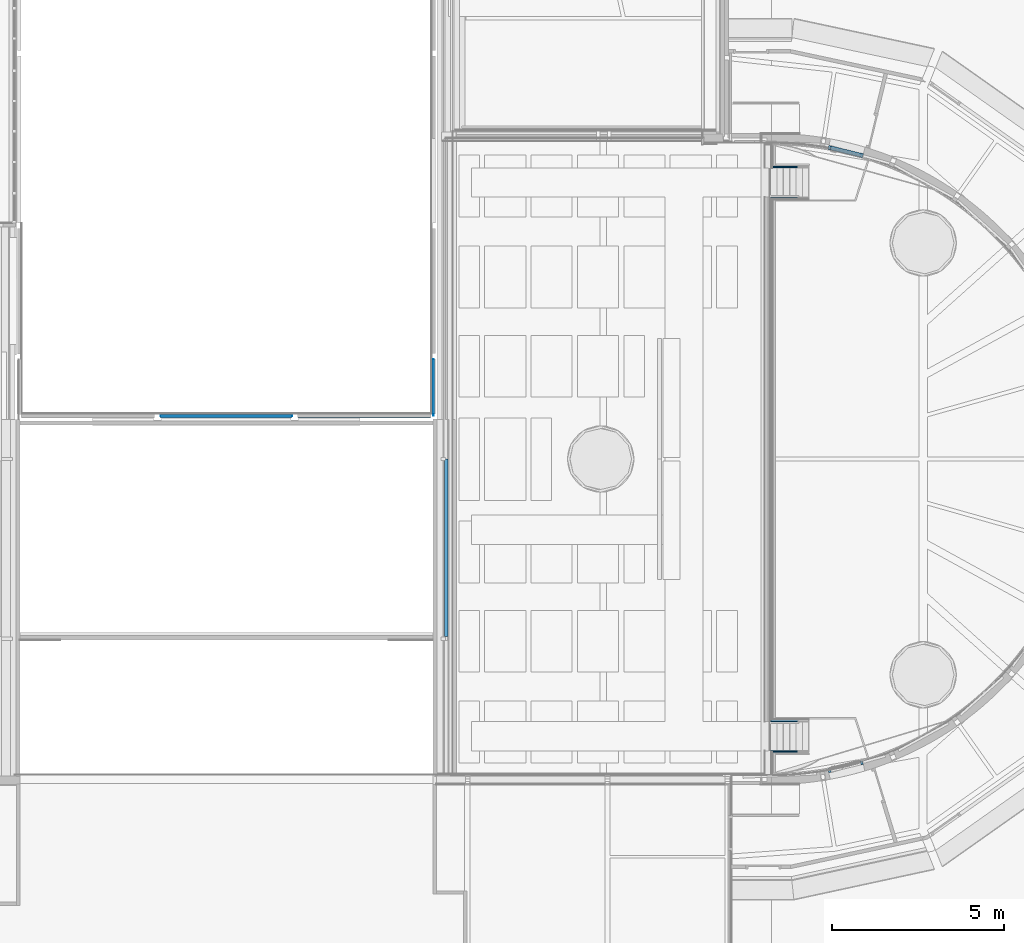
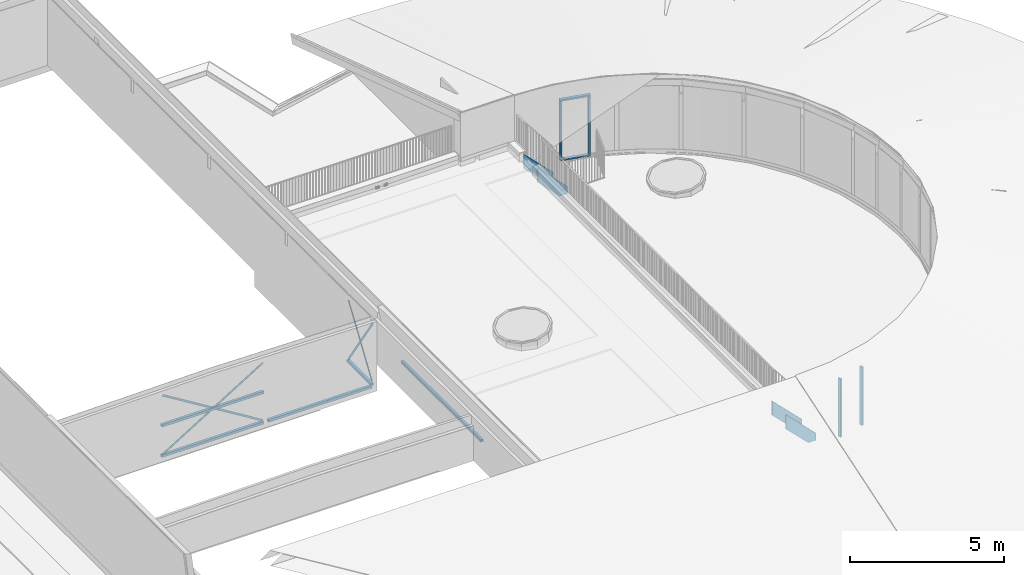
# One storey, part 4 of 66: 10 members, 9 beams, 4 elements without a shape of their own.
"""IFC2X3 building model written with IfcOpenShell, lengths in millimetres."""

import ifcopenshell
import ifcopenshell.guid

model = None  # the IFC model being written
_history = None  # IfcOwnerHistory: only IFC2X3 demands one
_inside = {}  # id of a spatial element -> (the spatial element, [elements in it])
_under = {}  # id of a project, library or spatial element -> (it, [spatial elements below it])
_declared = {}  # id of a project -> (the project, [libraries it declares])
_typed = {}  # id of a type object -> (the type object, [elements of that type])
_made_of = {}  # id of a material, layer set ... -> (it, [elements and type objects made of it])


def new_model(schema):
    """Start an empty IFC model of exactly this schema.

    Asked for "IFC4X3", IfcOpenShell would pick the latest addendum, in which some entities
    have other attributes; the version numbers below select the first issue.
    IFC2X3 requires an IfcOwnerHistory on every rooted entity: one is made here for all.
    """
    global model, _history
    if schema == "IFC4X3":
        model = ifcopenshell.file(schema_version=(4, 3, 0, 0))
    else:
        model = ifcopenshell.file(schema=schema)
    _inside.clear()
    _under.clear()
    _declared.clear()
    _typed.clear()
    _made_of.clear()
    _history = None
    if model.schema == "IFC2X3":
        org = make("IfcOrganization", Name="unknown")
        user = make(
            "IfcPersonAndOrganization",
            ThePerson=make("IfcPerson", FamilyName="unknown"),
            TheOrganization=org,
        )
        app = make(
            "IfcApplication",
            ApplicationDeveloper=org,
            Version="unknown",
            ApplicationFullName="unknown",
            ApplicationIdentifier="unknown",
        )
        _history = make(
            "IfcOwnerHistory",
            OwningUser=user,
            OwningApplication=app,
            ChangeAction="ADDED",
            CreationDate=0,
        )
    return model


def make(cls, **values):
    """One entity of the class cls with the attributes given. An attribute that is None is left unset."""
    return model.create_entity(
        cls, **{name: value for name, value in values.items() if value is not None}
    )


def entity(cls, *values):
    """Any entity or typed value of the class cls, its attributes in the order of the schema. None: left unset."""
    e = model.create_entity(cls)
    for i, value in enumerate(values):
        if value is not None:
            e[i] = value
    return e


def rooted(cls, **values):
    """An entity with a GlobalId (a new one), such as an element, a storey or a relation."""
    return make(cls, GlobalId=ifcopenshell.guid.new(), OwnerHistory=_history, **values)


def si_unit(unit_type, name, prefix=None):
    """IfcSIUnit, for example si_unit("LENGTHUNIT", "METRE", prefix="MILLI")."""
    return make("IfcSIUnit", UnitType=unit_type, Prefix=prefix, Name=name)


def converted_unit(unit_type, name, factor, base, dimensions=None, offset=None):
    """IfcConversionBasedUnit, such as the inch: factor (a typed value) times the base unit."""
    return make(
        "IfcConversionBasedUnit"
        if offset is None
        else "IfcConversionBasedUnitWithOffset",
        ConversionOffset=offset,
        Dimensions=None
        if dimensions is None
        else entity("IfcDimensionalExponents", *dimensions),
        UnitType=unit_type,
        Name=name,
        ConversionFactor=make(
            "IfcMeasureWithUnit", ValueComponent=factor, UnitComponent=base
        ),
    )


def derived_unit(unit_type, elements):
    """IfcDerivedUnit: a product of units, each with its exponent."""
    return make(
        "IfcDerivedUnit",
        Elements=[
            make("IfcDerivedUnitElement", Unit=unit, Exponent=power)
            for unit, power in elements
        ],
        UnitType=unit_type,
    )


def assignment(units):
    """IfcUnitAssignment: the units of a project."""
    return None if units is None else make("IfcUnitAssignment", Units=units)


def point(xyz):
    """IfcCartesianPoint."""
    return None if xyz is None else make("IfcCartesianPoint", Coordinates=xyz)


def direction(xyz):
    """IfcDirection."""
    return None if xyz is None else make("IfcDirection", DirectionRatios=xyz)


def frame(location, z_axis=None, x_axis=None):
    """IfcAxis2Placement3D, a coordinate frame: its origin and axes. An axis left out is left unset."""
    return make(
        "IfcAxis2Placement3D",
        Location=point(location),
        Axis=direction(z_axis),
        RefDirection=direction(x_axis),
    )


def frame_2d(location, x_axis=None):
    """IfcAxis2Placement2D, a coordinate frame in the plane: its origin and x axis."""
    return make(
        "IfcAxis2Placement2D", Location=point(location), RefDirection=direction(x_axis)
    )


def origin():
    """The frame at (0, 0, 0) with its axes left unset."""
    return frame((0.0, 0.0, 0.0))


def origin_2d_with_axis():
    """The frame at (0, 0) in the plane with the x axis (1, 0) written out."""
    return frame_2d((0.0, 0.0), x_axis=(1.0, 0.0))


def place(relative_to, where):
    """IfcLocalPlacement: puts the frame where relative to a parent placement (None: the world)."""
    return make(
        "IfcLocalPlacement", PlacementRelTo=relative_to, RelativePlacement=where
    )


def context(
    kind, dimensions, precision=None, world=None, true_north=None, identifier=None
):
    """IfcGeometricRepresentationContext, for example the 3D "Model" context."""
    return make(
        "IfcGeometricRepresentationContext",
        ContextIdentifier=identifier,
        ContextType=kind,
        CoordinateSpaceDimension=dimensions,
        Precision=precision,
        WorldCoordinateSystem=world,
        TrueNorth=true_north,
    )


def subcontext(parent, identifier, kind, view, scale=None):
    """IfcGeometricRepresentationSubContext, for example "Body" below "Model"."""
    return make(
        "IfcGeometricRepresentationSubContext",
        ContextIdentifier=identifier,
        ContextType=kind,
        ParentContext=parent,
        TargetScale=scale,
        TargetView=view,
    )


def project(units=None, contexts=None):
    """IfcProject with its units and contexts."""
    return rooted(
        "IfcProject",
        Name="project",
        RepresentationContexts=contexts,
        UnitsInContext=assignment(units),
    )


def spatial(cls, under=None, at=None, **own):
    """A site, building, storey or space (cls), placed at a placement, below another one or the project."""
    s = rooted(cls, ObjectPlacement=at, **own)
    if under is not None:
        _under.setdefault(under.id(), (under, []))[1].append(s)
    return s


def polyline(points):
    """IfcPolyline through the points."""
    return make("IfcPolyline", Points=[point(p) for p in points])


def profile(cls, at=None, kind="AREA", **sizes):
    """A parametric profile (cls). Its sizes go by their IFC names, for example OverallWidth=200.0."""
    return make(cls, ProfileType=kind, Position=at, **sizes)


def rectangle(**sizes):
    """IfcRectangleProfileDef."""
    return profile("IfcRectangleProfileDef", **sizes)


def outline(outer, holes=None, kind="AREA"):
    """IfcArbitraryClosedProfileDef: a profile drawn as a closed curve; with holes, ...WithVoids."""
    if holes is None:
        return make("IfcArbitraryClosedProfileDef", ProfileType=kind, OuterCurve=outer)
    return make(
        "IfcArbitraryProfileDefWithVoids",
        ProfileType=kind,
        OuterCurve=outer,
        InnerCurves=holes,
    )


def extrude(swept, where, along, depth):
    """IfcExtrudedAreaSolid: the profile swept, set in the frame where, extruded along a direction by depth."""
    return make(
        "IfcExtrudedAreaSolid",
        SweptArea=swept,
        Position=where,
        ExtrudedDirection=direction(along),
        Depth=depth,
    )


def boolean(op, a, b):
    """IfcBooleanResult of two solids."""
    return make("IfcBooleanResult", Operator=op, FirstOperand=a, SecondOperand=b)


def shape(context_of_items, identifier, shape_type, items):
    """IfcShapeRepresentation: the items that make up one representation, for example the "Body"."""
    return make(
        "IfcShapeRepresentation",
        ContextOfItems=context_of_items,
        RepresentationIdentifier=identifier,
        RepresentationType=shape_type,
        Items=items,
    )


def source(mapping_origin, context_of_items, identifier, shape_type, items):
    """IfcRepresentationMap: a shape defined once, which mapped items show again and again."""
    return make(
        "IfcRepresentationMap",
        MappingOrigin=mapping_origin,
        MappedRepresentation=shape(context_of_items, identifier, shape_type, items),
    )


def transform(
    local_origin,
    x_axis=None,
    y_axis=None,
    z_axis=None,
    scale=None,
    scale2=None,
    scale3=None,
    uniform=True,
):
    """IfcCartesianTransformationOperator3D, or its non-uniform kind. x_axis, y_axis, z_axis: its Axis1, 2, 3."""
    if uniform:
        return make(
            "IfcCartesianTransformationOperator3D",
            Axis1=direction(x_axis),
            Axis2=direction(y_axis),
            LocalOrigin=point(local_origin),
            Scale=scale,
            Axis3=direction(z_axis),
        )
    return make(
        "IfcCartesianTransformationOperator3DnonUniform",
        Axis1=direction(x_axis),
        Axis2=direction(y_axis),
        LocalOrigin=point(local_origin),
        Scale=scale,
        Axis3=direction(z_axis),
        Scale2=scale2,
        Scale3=scale3,
    )


def mapped(mapping_source, mapping_target):
    """IfcMappedItem: shows the shape of a source again, moved by a transform."""
    return make(
        "IfcMappedItem", MappingSource=mapping_source, MappingTarget=mapping_target
    )


def material(Name=None, Category=None):
    """IfcMaterial."""
    return make("IfcMaterial", Name=Name, Category=Category)


def made_of(thing, what):
    """Note that an element or type object is made of a material, layer set ...; save() writes the relation."""
    if what is not None:
        _made_of.setdefault(what.id(), (what, []))[1].append(thing)
    return thing


def type_object(cls, material=None, **own):
    """A type object (cls), such as IfcWallType, which elements share."""
    return made_of(rooted(cls, **own), material)


def type_shapes(of_type, sources):
    """Give a type object the sources (RepresentationMaps) that its elements show as mapped items."""
    of_type.RepresentationMaps = sources


def element(
    cls,
    number,
    at=None,
    inside=None,
    cuts=None,
    type_object=None,
    material=None,
    context=None,
    identifier="Body",
    shape_type=None,
    held_by="IfcProductDefinitionShape",
    body=None,
    shapes=None,
    **own,
):
    """One element of the class cls, such as IfcWall. Its Tag is "e" and its number.

    at: its placement. inside: the storey or other place that contains it. cuts: it is an
    opening in that element (IfcRelVoidsElement). A single representation is given by context,
    identifier, shape_type and body (its items); several are given by shapes. held_by: the class
    of the entity that holds the representations. save() writes the other relations.
    """
    e = rooted(cls, Tag="e%d" % number, ObjectPlacement=at, **own)
    if body is not None:
        shapes = [shape(context, identifier, shape_type, body)]
    if shapes is not None:
        e.Representation = make(held_by, Representations=shapes)
    if inside is not None:
        _inside.setdefault(inside.id(), (inside, []))[1].append(e)
    if cuts is not None:
        rooted(
            "IfcRelVoidsElement", RelatingBuildingElement=cuts, RelatedOpeningElement=e
        )
    if type_object is not None:
        _typed.setdefault(type_object.id(), (type_object, []))[1].append(e)
    return made_of(e, material)


def aggregate(whole, parts):
    """IfcRelAggregates: a whole, such as a stair, and the parts it consists of."""
    return rooted("IfcRelAggregates", RelatingObject=whole, RelatedObjects=parts)


def save(model, path):
    """Write the relations noted so far, then the file.

    IfcRelAggregates (storeys below a building ...), IfcRelContainedInSpatialStructure (elements
    in a storey), IfcRelDefinesByType, IfcRelAssociatesMaterial and IfcRelDeclares: one each for
    every whole, place, type object, material and project.
    """
    for whole, parts in _under.values():
        aggregate(whole, parts)
    for where, things in _inside.values():
        rooted(
            "IfcRelContainedInSpatialStructure",
            RelatedElements=things,
            RelatingStructure=where,
        )
    for kind, things in _typed.values():
        rooted("IfcRelDefinesByType", RelatedObjects=things, RelatingType=kind)
    for what, things in _made_of.values():
        rooted("IfcRelAssociatesMaterial", RelatedObjects=things, RelatingMaterial=what)
    for by, libraries in _declared.values():
        rooted("IfcRelDeclares", RelatingContext=by, RelatedDefinitions=libraries)
    model.write(path)


model = new_model("IFC2X3")

# Units and contexts
model_context = context("Model", 3, precision=0.01, world=origin(), true_north=direction((6.12303176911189e-17, 1.0)))
body_context = subcontext(model_context, "Body", "Model", "MODEL_VIEW")
ifc_project = project(units=[si_unit("LENGTHUNIT", "METRE", prefix="MILLI"), si_unit("AREAUNIT", "SQUARE_METRE"), si_unit("VOLUMEUNIT", "CUBIC_METRE"), converted_unit("PLANEANGLEUNIT", "DEGREE", entity("IfcRatioMeasure", 0.0174532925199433), si_unit("PLANEANGLEUNIT", "RADIAN"), dimensions=[0, 0, 0, 0, 0, 0, 0]), si_unit("MASSUNIT", "GRAM", prefix="KILO"), derived_unit("MASSDENSITYUNIT", [(si_unit("MASSUNIT", "GRAM", prefix="KILO"), 1), (si_unit("LENGTHUNIT", "METRE"), -3)]), derived_unit("MOMENTOFINERTIAUNIT", [(si_unit("LENGTHUNIT", "METRE"), 4)]), si_unit("TIMEUNIT", "SECOND"), si_unit("FREQUENCYUNIT", "HERTZ"), si_unit("THERMODYNAMICTEMPERATUREUNIT", "DEGREE_CELSIUS"), derived_unit("THERMALTRANSMITTANCEUNIT", [(si_unit("MASSUNIT", "GRAM", prefix="KILO"), 1), (si_unit("THERMODYNAMICTEMPERATUREUNIT", "KELVIN"), -1), (si_unit("TIMEUNIT", "SECOND"), -3)]), derived_unit("VOLUMETRICFLOWRATEUNIT", [(si_unit("LENGTHUNIT", "METRE"), 3), (si_unit("TIMEUNIT", "SECOND"), -1)]), si_unit("ELECTRICCURRENTUNIT", "AMPERE"), si_unit("ELECTRICVOLTAGEUNIT", "VOLT"), si_unit("POWERUNIT", "WATT"), si_unit("FORCEUNIT", "NEWTON", prefix="KILO"), si_unit("ILLUMINANCEUNIT", "LUX"), si_unit("LUMINOUSFLUXUNIT", "LUMEN"), si_unit("LUMINOUSINTENSITYUNIT", "CANDELA"), derived_unit("USERDEFINED", [(si_unit("MASSUNIT", "GRAM", prefix="KILO"), -1), (si_unit("LENGTHUNIT", "METRE"), -2), (si_unit("TIMEUNIT", "SECOND"), 3), (si_unit("LUMINOUSFLUXUNIT", "LUMEN"), 1)]), derived_unit("LINEARVELOCITYUNIT", [(si_unit("LENGTHUNIT", "METRE"), 1), (si_unit("TIMEUNIT", "SECOND"), -1)]), si_unit("PRESSUREUNIT", "PASCAL"), derived_unit("USERDEFINED", [(si_unit("LENGTHUNIT", "METRE"), -2), (si_unit("MASSUNIT", "GRAM", prefix="KILO"), 1), (si_unit("TIMEUNIT", "SECOND"), -2)]), derived_unit("LINEARFORCEUNIT", [(si_unit("MASSUNIT", "GRAM", prefix="KILO"), 1), (si_unit("LENGTHUNIT", "METRE"), 1), (si_unit("TIMEUNIT", "SECOND"), -2), (si_unit("LENGTHUNIT", "METRE"), -1)]), derived_unit("PLANARFORCEUNIT", [(si_unit("MASSUNIT", "GRAM", prefix="KILO"), 1), (si_unit("LENGTHUNIT", "METRE"), 1), (si_unit("TIMEUNIT", "SECOND"), -2), (si_unit("LENGTHUNIT", "METRE"), -2)])], contexts=[model_context])

# Site, building, storey
site_placement = place(None, origin())
site = spatial("IfcSite", under=ifc_project, at=site_placement, Name="Default", CompositionType="ELEMENT")
building_placement = place(site_placement, origin())
building = spatial("IfcBuilding", under=site, at=building_placement, Name="-", CompositionType="ELEMENT")
storey_placement = place(building_placement, frame((0.0, 0.0, 3070.0)))
storey = spatial("IfcBuildingStorey", under=building, at=storey_placement, Name="01 eerste verdieping", CompositionType="ELEMENT", Elevation=3070.00000000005)

# Stair, members
stair_1_placement = place(storey_placement, origin())
stair_1 = element("IfcStair", 1, at=stair_1_placement, inside=storey, Name="Assembled Stair:Stair", ObjectType="Assembled Stair:27_woningbouw", ShapeType="STRAIGHT_RUN_STAIR")
ifc_material_1 = material(Name="AL_31_Naaldhout Trap boom")
member_type_1 = type_object("IfcMemberType", Name="Stringer:Stringer - 50 mm Width (2)", PredefinedType="STRINGER")
member_1_placement = place(stair_1_placement, origin())
member_1 = element("IfcMember", 2, at=member_1_placement, type_object=member_type_1, material=ifc_material_1, Name="Assembled Stair:Stair:6459863 Stringer 1", ObjectType="Stringer:Stringer - 50 mm Width (2)", context=body_context, shape_type="SweptSolid", body=[
    extrude(outline(polyline([(-501.467792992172, -498.167899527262), (-214.128828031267, -498.167899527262), (608.532207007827, 325.128394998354), (608.532207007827, 891.032273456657), (-501.467792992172, -219.824869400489), (-501.467792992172, -498.167899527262)])), frame((51230.1525971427, 11080.9965964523, 738.167899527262), z_axis=(0.0, 1.0, 0.0), x_axis=(-1.0, 0.0, 0.0)), (0.0, 0.0, 1.0), 49.9999999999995),
])
member_2_placement = place(stair_1_placement, origin())
member_2 = element("IfcMember", 3, at=member_2_placement, type_object=member_type_1, material=ifc_material_1, Name="Assembled Stair:Stair:6459863 Stringer 2", ObjectType="Stringer:Stringer - 50 mm Width (2)", context=body_context, shape_type="SweptSolid", body=[
    extrude(outline(polyline([(-501.467792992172, -498.167899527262), (-214.128828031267, -498.167899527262), (608.532207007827, 325.128394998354), (608.532207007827, 891.032273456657), (-501.467792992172, -219.824869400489), (-501.467792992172, -498.167899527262)])), frame((51230.1525971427, 11980.9965964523, 738.167899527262), z_axis=(0.0, 1.0, 0.0), x_axis=(-1.0, 0.0, 0.0)), (0.0, 0.0, 1.0), 49.9999999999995),
])
aggregate(stair_1, [member_1, member_2])

stair_2_placement = place(storey_placement, origin())
stair_2 = element("IfcStair", 4, at=stair_2_placement, inside=storey, Name="Assembled Stair:Stair", ObjectType="Assembled Stair:27_woningbouw", ShapeType="STRAIGHT_RUN_STAIR")
member_3_placement = place(stair_2_placement, origin())
member_3 = element("IfcMember", 5, at=member_3_placement, type_object=member_type_1, material=ifc_material_1, Name="Assembled Stair:Stair:6460690 Stringer 1", ObjectType="Stringer:Stringer - 50 mm Width (2)", context=body_context, shape_type="SweptSolid", body=[
    extrude(outline(polyline([(-501.467792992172, -498.167899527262), (-214.128828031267, -498.167899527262), (608.532207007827, 325.128394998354), (608.532207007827, 891.032273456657), (-501.467792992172, -219.824869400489), (-501.467792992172, -498.167899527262)])), frame((51230.1525971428, 27180.9965964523, 738.167899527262), z_axis=(0.0, 1.0, 0.0), x_axis=(-1.0, 0.0, 0.0)), (0.0, 0.0, 1.0), 50.0000000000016),
])
member_4_placement = place(stair_2_placement, origin())
member_4 = element("IfcMember", 6, at=member_4_placement, type_object=member_type_1, material=ifc_material_1, Name="Assembled Stair:Stair:6460690 Stringer 2", ObjectType="Stringer:Stringer - 50 mm Width (2)", context=body_context, shape_type="SweptSolid", body=[
    extrude(outline(polyline([(-501.467792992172, -498.167899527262), (-214.128828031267, -498.167899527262), (608.532207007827, 325.128394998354), (608.532207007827, 891.032273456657), (-501.467792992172, -219.824869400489), (-501.467792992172, -498.167899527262)])), frame((51230.1525971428, 28080.9965964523, 738.167899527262), z_axis=(0.0, 1.0, 0.0), x_axis=(-1.0, 0.0, 0.0)), (0.0, 0.0, 1.0), 50.0000000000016),
])
aggregate(stair_2, [member_3, member_4])

# Beams
ifc_material_2 = material(Name="NLRS_h3_staal_verzinkt")
beam_type_1 = type_object("IfcBeamType", Name="NLRS_28_SF_UN_kokerprofielen_gen_aly:K100/4", PredefinedType="NOTDEFINED")
beam_1_placement = place(storey_placement, frame((40812.1311424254, 22567.5320880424, 345.0), z_axis=(0.0, 0.0, 1.0), x_axis=(0.0, -1.0, 0.0)))
element("IfcBeam", 7, at=beam_1_placement, inside=storey, type_object=beam_type_1, material=ifc_material_2, Name="NLRS_28_SF_UN_kokerprofielen_gen_aly:K100/4", ObjectType="NLRS_28_SF_UN_kokerprofielen_gen_aly:K100/4", context=body_context, shape_type="CSG", body=[
    boolean("DIFFERENCE", extrude(rectangle(XDim=100.0, YDim=100.000000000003, at=origin_2d_with_axis()), frame((59.4118375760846, 0.0, -50.0), z_axis=(1.0, 0.0, 0.0), x_axis=(0.0, 0.0, -1.0)), (0.0, 0.0, 1.0), 1570.10000000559), extrude(rectangle(XDim=92.0000000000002, YDim=91.9999999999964, at=frame_2d((0.0, 2.70006239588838e-13), x_axis=(0.0, 1.0))), frame((1629.51183758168, 0.0, -50.0), z_axis=(-1.0, 0.0, 0.0), x_axis=(0.0, 1.0, 0.0)), (0.0, 0.0, 1.0), 1570.10000000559)),
])
beam_2_placement = place(storey_placement, frame((36774.0, 20866.3202504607, 345.0)))
element("IfcBeam", 8, at=beam_2_placement, inside=storey, type_object=beam_type_1, material=ifc_material_2, Name="NLRS_28_SF_UN_kokerprofielen_gen_aly:K100/4", ObjectType="NLRS_28_SF_UN_kokerprofielen_gen_aly:K100/4", context=body_context, shape_type="CSG", body=[
    boolean("DIFFERENCE", extrude(rectangle(XDim=100.0, YDim=99.9999999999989, at=frame_2d((-5.40012479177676e-13, 1.51594292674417e-11), x_axis=(1.0, 0.0))), frame((95.6999999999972, 0.0, -50.0), z_axis=(1.0, 0.0, 0.0), x_axis=(0.0, 0.0, -1.0)), (0.0, 0.0, 1.0), 3858.60000000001), extrude(rectangle(XDim=92.0000000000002, YDim=92.0000000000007, at=frame_2d((2.16715534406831e-12, 2.70006239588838e-13), x_axis=(0.0, 1.0))), frame((3954.3, 0.0, -50.0), z_axis=(-1.0, 0.0, 0.0), x_axis=(0.0, 1.0, 0.0)), (0.0, 0.0, 1.0), 3858.60000000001)),
])
beam_3_placement = place(storey_placement, frame((32874.0, 20866.3202504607, 345.0)))
element("IfcBeam", 9, at=beam_3_placement, inside=storey, type_object=beam_type_1, material=ifc_material_2, Name="NLRS_28_SF_UN_kokerprofielen_gen_aly:K100/4", ObjectType="NLRS_28_SF_UN_kokerprofielen_gen_aly:K100/4", context=body_context, shape_type="CSG", body=[
    boolean("DIFFERENCE", extrude(rectangle(XDim=100.0, YDim=99.9999999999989, at=frame_2d((0.0, 1.08286712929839e-11), x_axis=(1.0, 0.0))), frame((1.6999999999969, 0.0, -50.0), z_axis=(1.0, 0.0, 0.0), x_axis=(0.0, 0.0, -1.0)), (0.0, 0.0, 1.0), 3808.60000000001), extrude(rectangle(XDim=92.0000000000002, YDim=92.0000000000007, at=frame_2d((-2.16715534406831e-12, 2.70006239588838e-13), x_axis=(0.0, 1.0))), frame((3810.3, 0.0, -50.0), z_axis=(-1.0, 0.0, 0.0), x_axis=(0.0, 1.0, 0.0)), (0.0, 0.0, 1.0), 3808.6)),
])
beam_4_placement = place(storey_placement, frame((32874.0, 20866.3202504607, 1545.0)))
element("IfcBeam", 10, at=beam_4_placement, inside=storey, type_object=beam_type_1, material=ifc_material_2, Name="NLRS_28_SF_UN_kokerprofielen_gen_aly:K100/4", ObjectType="NLRS_28_SF_UN_kokerprofielen_gen_aly:K100/4", context=body_context, shape_type="CSG", body=[
    boolean("DIFFERENCE", extrude(rectangle(XDim=100.0, YDim=99.9999999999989, at=frame_2d((0.0, 1.08286712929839e-11), x_axis=(1.0, 0.0))), frame((1.69999999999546, 0.0, -50.0), z_axis=(1.0, 0.0, 0.0), x_axis=(0.0, 0.0, -1.0)), (0.0, 0.0, 1.0), 3808.60000000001), extrude(rectangle(XDim=92.0000000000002, YDim=92.0000000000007, at=frame_2d((-2.16715534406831e-12, 2.70006239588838e-13), x_axis=(0.0, 1.0))), frame((3810.3, 0.0, -50.0), z_axis=(-1.0, 0.0, 0.0), x_axis=(0.0, 1.0, 0.0)), (0.0, 0.0, 1.0), 3808.6)),
])
beam_5_placement = place(storey_placement, frame((41180.6260617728, 19617.5681303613, 1919.57579493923), z_axis=(0.0, 0.0, 1.0), x_axis=(0.0, -1.0, 0.0)))
element("IfcBeam", 11, at=beam_5_placement, inside=storey, type_object=beam_type_1, material=ifc_material_2, Name="NLRS_28_SF_UN_kokerprofielen_gen_aly:K100/4", ObjectType="NLRS_28_SF_UN_kokerprofielen_gen_aly:K100/4", context=body_context, shape_type="CSG", body=[
    boolean("DIFFERENCE", extrude(rectangle(XDim=100.0, YDim=99.9999999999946, at=frame_2d((-1.62359015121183e-12, 0.0), x_axis=(1.0, 0.0))), frame((0.0, 0.0, -50.0), z_axis=(1.0, 0.0, 0.0), x_axis=(0.0, 0.0, -1.0)), (0.0, 0.0, 1.0), 5161.24787990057), extrude(rectangle(XDim=91.9999999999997, YDim=91.9999999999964, at=frame_2d((0.0, -5.40012479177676e-13), x_axis=(0.0, 1.0))), frame((0.0, 0.0, -50.0), z_axis=(1.0, 0.0, 0.0), x_axis=(0.0, -1.0, 0.0)), (0.0, 0.0, 1.0), 5161.24787990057)),
])
beam_type_2 = type_object("IfcBeamType", Name="Stripstaal_staand_ITX:8x80", PredefinedType="NOTDEFINED")
beam_6_placement = place(storey_placement, frame((32874.0, 20866.3202504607, 2750.0), z_axis=(0.524097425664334, 0.0, 0.851658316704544), x_axis=(0.851658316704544, 0.0, -0.524097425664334)))
element("IfcBeam", 12, at=beam_6_placement, inside=storey, type_object=beam_type_2, material=ifc_material_2, Name="Stripstaal_staand_ITX:8x80", ObjectType="Stripstaal_staand_ITX:8x80", context=body_context, shape_type="SweptSolid", body=[
    extrude(rectangle(XDim=79.9999999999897, YDim=8.00000000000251, at=frame_2d((0.0, -2.16582307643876e-12), x_axis=(1.0, 0.0))), frame((82.4102944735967, 0.0, -40.0), z_axis=(1.0, 0.0, 0.0), x_axis=(0.0, 0.0, -1.0)), (0.0, 0.0, 1.0), 4393.77911694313),
])
beam_7_placement = place(storey_placement, frame((32874.0, 20866.3202504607, 350.0), z_axis=(-0.524097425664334, 0.0, 0.851658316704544), x_axis=(0.851658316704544, 0.0, 0.524097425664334)))
element("IfcBeam", 13, at=beam_7_placement, inside=storey, type_object=beam_type_2, material=ifc_material_2, Name="Stripstaal_staand_ITX:8x80", ObjectType="Stripstaal_staand_ITX:8x80", context=body_context, shape_type="SweptSolid", body=[
    extrude(rectangle(XDim=79.9999999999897, YDim=8.00000000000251, at=frame_2d((0.0, -2.16582307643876e-12), x_axis=(1.0, 0.0))), frame((-0.215977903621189, 0.0, -40.0), z_axis=(1.0, 0.0, 0.0), x_axis=(0.0, 0.0, -1.0)), (0.0, 0.0, 1.0), 4444.91651539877),
])
beam_8_placement = place(storey_placement, frame((40812.1311424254, 22567.5320880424, 300.0), z_axis=(1.0, 0.0, 0.0), x_axis=(0.0, -0.553341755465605, 0.832954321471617)))
element("IfcBeam", 14, at=beam_8_placement, inside=storey, type_object=beam_type_2, material=ifc_material_2, Name="Stripstaal_staand_ITX:8x80", ObjectType="Stripstaal_staand_ITX:8x80", context=body_context, shape_type="SweptSolid", body=[
    extrude(rectangle(XDim=79.9999999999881, YDim=7.99999999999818, at=frame_2d((0.0, 2.55084842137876e-12), x_axis=(0.0, 1.0))), frame((97.1176986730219, 40.0, 0.0), z_axis=(1.0, 0.0, 0.0), x_axis=(0.0, 0.0, -1.0)), (0.0, 0.0, 1.0), 2848.65291909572),
])
beam_9_placement = place(storey_placement, frame((40812.1311424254, 22567.5320880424, 2900.0), z_axis=(1.0, 0.0, 0.0), x_axis=(0.0, -0.553341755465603, -0.832954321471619)))
element("IfcBeam", 15, at=beam_9_placement, inside=storey, type_object=beam_type_2, material=ifc_material_2, Name="Stripstaal_staand_ITX:8x80", ObjectType="Stripstaal_staand_ITX:8x80", context=body_context, shape_type="SweptSolid", body=[
    extrude(rectangle(XDim=79.9999999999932, YDim=7.99999999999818, at=frame_2d((0.0, -2.40163444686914e-12), x_axis=(0.0, 1.0))), frame((217.542996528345, 40.0, 0.0), z_axis=(1.0, 0.0, 0.0), x_axis=(0.0, 0.0, -1.0)), (0.0, 0.0, 1.0), 2737.56454982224),
])

# Curtain wall, member
curtain_wall_type = type_object("IfcCurtainWallType", Name="Curtain Wall:NLRS_31_WIN_UN_houten kozijn vrij indeelbaar_gen_aly", PredefinedType="NOTDEFINED")
curtain_wall_1_placement = place(storey_placement, frame((0.0, 0.0, -3070.0)))
curtain_wall_1 = element("IfcCurtainWall", 16, at=curtain_wall_1_placement, inside=storey, type_object=curtain_wall_type, Name="Curtain Wall:NLRS_31_WIN_UN_houten kozijn vrij indeelbaar_gen_aly", ObjectType="Curtain Wall:NLRS_31_WIN_UN_houten kozijn vrij indeelbaar_gen_aly")
ifc_material_3 = material(Name="AL Kozijnhout bruin")
member_type_2 = type_object("IfcMemberType", Name="Rectangular Mullion:67x114 Bruin", PredefinedType="MULLION", material=ifc_material_3)
shared_shape_1 = source(origin(), body_context, "Body", "SweptSolid", [
    extrude(rectangle(XDim=114.0, YDim=67.0, at=origin_2d_with_axis()), frame((-33.5, 0.0, -2303.0), z_axis=(0.0, 0.0, 1.0), x_axis=(0.0, -1.0, 0.0)), (0.0, 0.0, 1.0), 2303.00000000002),
])
type_shapes(member_type_2, [shared_shape_1])
member_5_placement = place(storey_placement, frame((53300.0689398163, 10790.9824361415, 502.0), z_axis=(0.0, 0.0, -1.0), x_axis=(0.972293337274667, 0.233764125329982, 0.0)))
member_5 = element("IfcMember", 17, at=member_5_placement, type_object=member_type_2, material=ifc_material_3, Name="Rectangular Mullion:67x114 Bruin", ObjectType="Rectangular Mullion:67x114 Bruin", context=body_context, shape_type="MappedRepresentation", body=[
    mapped(shared_shape_1, transform((0.0, 0.0, 0.0), scale=1.0)),
])

curtain_wall_2_placement = place(storey_placement, frame((0.0, 0.0, -3070.0)))
curtain_wall_2 = element("IfcCurtainWall", 18, at=curtain_wall_2_placement, inside=storey, type_object=curtain_wall_type, Name="Curtain Wall:NLRS_31_WIN_UN_houten kozijn vrij indeelbaar_gen_aly", ObjectType="Curtain Wall:NLRS_31_WIN_UN_houten kozijn vrij indeelbaar_gen_aly")
member_6_placement = place(storey_placement, frame((52299.0061791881, 28681.6173978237, 502.0), z_axis=(0.0, 0.0, -1.0), x_axis=(-0.972188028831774, 0.234201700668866, 0.0)))
member_6 = element("IfcMember", 19, at=member_6_placement, type_object=member_type_2, material=ifc_material_3, Name="Rectangular Mullion:67x114 Bruin", ObjectType="Rectangular Mullion:67x114 Bruin", context=body_context, shape_type="MappedRepresentation", body=[
    mapped(shared_shape_1, transform((0.0, 0.0, 0.0), scale=1.0)),
])

# Member
member_type_3 = type_object("IfcMemberType", Name="Rectangular Mullion:67x114 Bruin", PredefinedType="MULLION", material=ifc_material_3)
shared_shape_2 = source(origin(), body_context, "Body", "SweptSolid", [
    extrude(rectangle(XDim=114.0, YDim=67.0, at=origin_2d_with_axis()), frame((-33.5, 0.0, -2303.0), z_axis=(0.0, 0.0, 1.0), x_axis=(0.0, -1.0, 0.0)), (0.0, 0.0, 1.0), 2303.00000000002),
])
type_shapes(member_type_3, [shared_shape_2])
member_7_placement = place(storey_placement, frame((52294.7176290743, 10549.2703305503, 2805.0), z_axis=(0.0, 0.0, 1.0), x_axis=(-0.972293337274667, -0.233764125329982, 0.0)))
member_7 = element("IfcMember", 20, at=member_7_placement, type_object=member_type_3, material=ifc_material_3, Name="Rectangular Mullion:67x114 Bruin", ObjectType="Rectangular Mullion:67x114 Bruin", context=body_context, shape_type="MappedRepresentation", body=[
    mapped(shared_shape_2, transform((0.0, 0.0, 0.0), scale=1.0)),
])

aggregate(curtain_wall_1, [member_5, member_7])

member_8_placement = place(storey_placement, frame((53303.6746583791, 28439.5911030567, 2805.0), z_axis=(0.0, 0.0, 1.0), x_axis=(0.972188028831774, -0.234201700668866, 0.0)))
member_8 = element("IfcMember", 21, at=member_8_placement, type_object=member_type_3, material=ifc_material_3, Name="Rectangular Mullion:67x114 Bruin", ObjectType="Rectangular Mullion:67x114 Bruin", context=body_context, shape_type="MappedRepresentation", body=[
    mapped(shared_shape_2, transform((0.0, 0.0, 0.0), scale=1.0)),
])

member_type_4 = type_object("IfcMemberType", Name="Rectangular Mullion:67x114 Bruin", PredefinedType="MULLION", material=ifc_material_3)
shared_shape_3 = source(origin(), body_context, "Body", "SweptSolid", [
    extrude(rectangle(XDim=114.0, YDim=67.0, at=origin_2d_with_axis()), frame((-33.5, 0.0, -1033.40963825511), z_axis=(0.0, 0.0, 1.0), x_axis=(0.0, -1.0, 0.0)), (0.0, 0.0, 1.0), 1033.40963825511),
])
type_shapes(member_type_4, [shared_shape_3])
member_9_placement = place(storey_placement, frame((52299.0061791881, 28681.6173978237, 2872.0), z_axis=(-0.972188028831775, 0.234201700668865, 0.0), x_axis=(0.0, 0.0, 1.0)))
member_9 = element("IfcMember", 22, at=member_9_placement, type_object=member_type_4, material=ifc_material_3, Name="Rectangular Mullion:67x114 Bruin", ObjectType="Rectangular Mullion:67x114 Bruin", context=body_context, shape_type="MappedRepresentation", body=[
    mapped(shared_shape_3, transform((0.0, 0.0, 0.0), scale=1.0)),
])

ifc_material_4 = material(Name="NLRS_n6_kunststof_DTS-basis black")
member_type_5 = type_object("IfcMemberType", Name="Rectangular Mullion:52x114 DTS", PredefinedType="MULLION", material=ifc_material_4)
shared_shape_4 = source(origin(), body_context, "Body", "SweptSolid", [
    extrude(rectangle(XDim=114.0, YDim=52.0, at=origin_2d_with_axis()), frame((-26.0, 0.0, -1033.40963825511), z_axis=(0.0, 0.0, 1.0), x_axis=(0.0, -1.0, 0.0)), (0.0, 0.0, 1.0), 1033.40963825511),
])
type_shapes(member_type_5, [shared_shape_4])
member_10_placement = place(storey_placement, frame((53303.6746583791, 28439.5911030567, 450.0), z_axis=(0.972188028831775, -0.234201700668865, 0.0), x_axis=(0.0, 0.0, -1.0)))
member_10 = element("IfcMember", 23, at=member_10_placement, type_object=member_type_5, material=ifc_material_4, Name="Rectangular Mullion:52x114 DTS", ObjectType="Rectangular Mullion:52x114 DTS", context=body_context, shape_type="MappedRepresentation", body=[
    mapped(shared_shape_4, transform((0.0, 0.0, 0.0), scale=1.0)),
])

aggregate(curtain_wall_2, [member_9, member_10, member_6, member_8])

save(model, "model.ifc")
